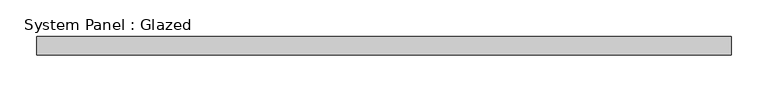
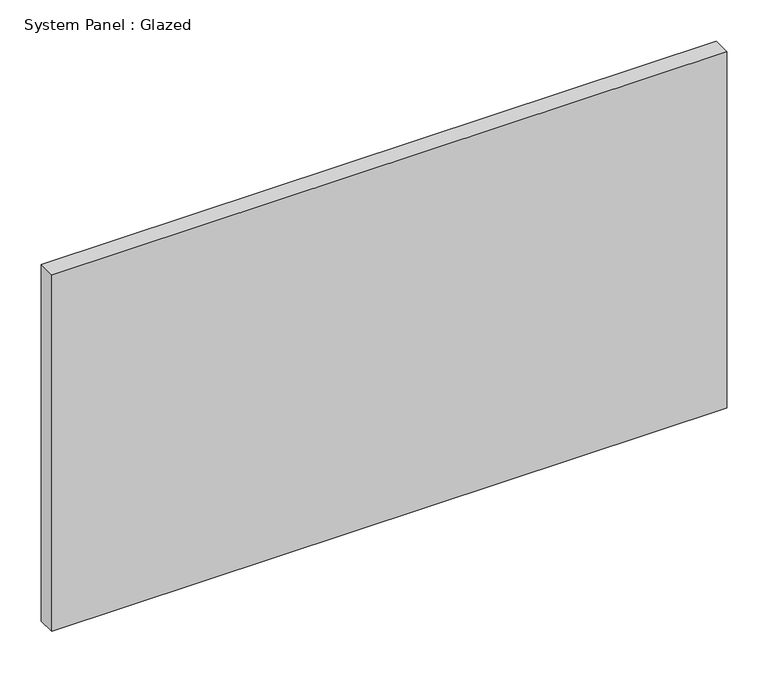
"""IFC4 building model written with IfcOpenShell, lengths in millimetres: plate geometry, System Panel : Glazed."""

import ifcopenshell
import ifcopenshell.guid

model = None  # the IFC model being written
_history = None  # IfcOwnerHistory: only IFC2X3 demands one
_inside = {}  # id of a spatial element -> (the spatial element, [elements in it])
_under = {}  # id of a project, library or spatial element -> (it, [spatial elements below it])
_declared = {}  # id of a project -> (the project, [libraries it declares])
_typed = {}  # id of a type object -> (the type object, [elements of that type])
_made_of = {}  # id of a material, layer set ... -> (it, [elements and type objects made of it])


def new_model(schema):
    """Start an empty IFC model of exactly this schema.

    Asked for "IFC4X3", IfcOpenShell would pick the latest addendum, in which some entities
    have other attributes; the version numbers below select the first issue.
    IFC2X3 requires an IfcOwnerHistory on every rooted entity: one is made here for all.
    """
    global model, _history
    if schema == "IFC4X3":
        model = ifcopenshell.file(schema_version=(4, 3, 0, 0))
    else:
        model = ifcopenshell.file(schema=schema)
    _inside.clear()
    _under.clear()
    _declared.clear()
    _typed.clear()
    _made_of.clear()
    _history = None
    if model.schema == "IFC2X3":
        org = make("IfcOrganization", Name="unknown")
        user = make(
            "IfcPersonAndOrganization",
            ThePerson=make("IfcPerson", FamilyName="unknown"),
            TheOrganization=org,
        )
        app = make(
            "IfcApplication",
            ApplicationDeveloper=org,
            Version="unknown",
            ApplicationFullName="unknown",
            ApplicationIdentifier="unknown",
        )
        _history = make(
            "IfcOwnerHistory",
            OwningUser=user,
            OwningApplication=app,
            ChangeAction="ADDED",
            CreationDate=0,
        )
    return model


def make(cls, **values):
    """One entity of the class cls with the attributes given. An attribute that is None is left unset."""
    return model.create_entity(
        cls, **{name: value for name, value in values.items() if value is not None}
    )


def rooted(cls, **values):
    """An entity with a GlobalId (a new one), such as an element, a storey or a relation."""
    return make(cls, GlobalId=ifcopenshell.guid.new(), OwnerHistory=_history, **values)


def si_unit(unit_type, name, prefix=None):
    """IfcSIUnit, for example si_unit("LENGTHUNIT", "METRE", prefix="MILLI")."""
    return make("IfcSIUnit", UnitType=unit_type, Prefix=prefix, Name=name)


def assignment(units):
    """IfcUnitAssignment: the units of a project."""
    return None if units is None else make("IfcUnitAssignment", Units=units)


def point(xyz):
    """IfcCartesianPoint."""
    return None if xyz is None else make("IfcCartesianPoint", Coordinates=xyz)


def direction(xyz):
    """IfcDirection."""
    return None if xyz is None else make("IfcDirection", DirectionRatios=xyz)


def frame(location, z_axis=None, x_axis=None):
    """IfcAxis2Placement3D, a coordinate frame: its origin and axes. An axis left out is left unset."""
    return make(
        "IfcAxis2Placement3D",
        Location=point(location),
        Axis=direction(z_axis),
        RefDirection=direction(x_axis),
    )


def origin():
    """The frame at (0, 0, 0) with its axes left unset."""
    return frame((0.0, 0.0, 0.0))


def origin_with_axes():
    """The frame at (0, 0, 0) with the z axis (0, 0, 1) and the x axis (1, 0, 0) written out."""
    return frame((0.0, 0.0, 0.0), z_axis=(0.0, 0.0, 1.0), x_axis=(1.0, 0.0, 0.0))


def place(relative_to, where):
    """IfcLocalPlacement: puts the frame where relative to a parent placement (None: the world)."""
    return make(
        "IfcLocalPlacement", PlacementRelTo=relative_to, RelativePlacement=where
    )


def context(
    kind, dimensions, precision=None, world=None, true_north=None, identifier=None
):
    """IfcGeometricRepresentationContext, for example the 3D "Model" context."""
    return make(
        "IfcGeometricRepresentationContext",
        ContextIdentifier=identifier,
        ContextType=kind,
        CoordinateSpaceDimension=dimensions,
        Precision=precision,
        WorldCoordinateSystem=world,
        TrueNorth=true_north,
    )


def project(units=None, contexts=None):
    """IfcProject with its units and contexts."""
    return rooted(
        "IfcProject",
        Name="project",
        RepresentationContexts=contexts,
        UnitsInContext=assignment(units),
    )


def spatial(cls, under=None, at=None, **own):
    """A site, building, storey or space (cls), placed at a placement, below another one or the project."""
    s = rooted(cls, ObjectPlacement=at, **own)
    if under is not None:
        _under.setdefault(under.id(), (under, []))[1].append(s)
    return s


def polyline(points):
    """IfcPolyline through the points."""
    return make("IfcPolyline", Points=[point(p) for p in points])


def outline(outer, holes=None, kind="AREA"):
    """IfcArbitraryClosedProfileDef: a profile drawn as a closed curve; with holes, ...WithVoids."""
    if holes is None:
        return make("IfcArbitraryClosedProfileDef", ProfileType=kind, OuterCurve=outer)
    return make(
        "IfcArbitraryProfileDefWithVoids",
        ProfileType=kind,
        OuterCurve=outer,
        InnerCurves=holes,
    )


def extrude(swept, where, along, depth):
    """IfcExtrudedAreaSolid: the profile swept, set in the frame where, extruded along a direction by depth."""
    return make(
        "IfcExtrudedAreaSolid",
        SweptArea=swept,
        Position=where,
        ExtrudedDirection=direction(along),
        Depth=depth,
    )


def shape(context_of_items, identifier, shape_type, items):
    """IfcShapeRepresentation: the items that make up one representation, for example the "Body"."""
    return make(
        "IfcShapeRepresentation",
        ContextOfItems=context_of_items,
        RepresentationIdentifier=identifier,
        RepresentationType=shape_type,
        Items=items,
    )


def source(mapping_origin, context_of_items, identifier, shape_type, items):
    """IfcRepresentationMap: a shape defined once, which mapped items show again and again."""
    return make(
        "IfcRepresentationMap",
        MappingOrigin=mapping_origin,
        MappedRepresentation=shape(context_of_items, identifier, shape_type, items),
    )


def transform(
    local_origin,
    x_axis=None,
    y_axis=None,
    z_axis=None,
    scale=None,
    scale2=None,
    scale3=None,
    uniform=True,
):
    """IfcCartesianTransformationOperator3D, or its non-uniform kind. x_axis, y_axis, z_axis: its Axis1, 2, 3."""
    if uniform:
        return make(
            "IfcCartesianTransformationOperator3D",
            Axis1=direction(x_axis),
            Axis2=direction(y_axis),
            LocalOrigin=point(local_origin),
            Scale=scale,
            Axis3=direction(z_axis),
        )
    return make(
        "IfcCartesianTransformationOperator3DnonUniform",
        Axis1=direction(x_axis),
        Axis2=direction(y_axis),
        LocalOrigin=point(local_origin),
        Scale=scale,
        Axis3=direction(z_axis),
        Scale2=scale2,
        Scale3=scale3,
    )


def mapped(mapping_source, mapping_target):
    """IfcMappedItem: shows the shape of a source again, moved by a transform."""
    return make(
        "IfcMappedItem", MappingSource=mapping_source, MappingTarget=mapping_target
    )


def made_of(thing, what):
    """Note that an element or type object is made of a material, layer set ...; save() writes the relation."""
    if what is not None:
        _made_of.setdefault(what.id(), (what, []))[1].append(thing)
    return thing


def element(
    cls,
    number,
    at=None,
    inside=None,
    cuts=None,
    type_object=None,
    material=None,
    context=None,
    identifier="Body",
    shape_type=None,
    held_by="IfcProductDefinitionShape",
    body=None,
    shapes=None,
    **own,
):
    """One element of the class cls, such as IfcWall. Its Tag is "e" and its number.

    at: its placement. inside: the storey or other place that contains it. cuts: it is an
    opening in that element (IfcRelVoidsElement). A single representation is given by context,
    identifier, shape_type and body (its items); several are given by shapes. held_by: the class
    of the entity that holds the representations. save() writes the other relations.
    """
    e = rooted(cls, Tag="e%d" % number, ObjectPlacement=at, **own)
    if body is not None:
        shapes = [shape(context, identifier, shape_type, body)]
    if shapes is not None:
        e.Representation = make(held_by, Representations=shapes)
    if inside is not None:
        _inside.setdefault(inside.id(), (inside, []))[1].append(e)
    if cuts is not None:
        rooted(
            "IfcRelVoidsElement", RelatingBuildingElement=cuts, RelatedOpeningElement=e
        )
    if type_object is not None:
        _typed.setdefault(type_object.id(), (type_object, []))[1].append(e)
    return made_of(e, material)


def aggregate(whole, parts):
    """IfcRelAggregates: a whole, such as a stair, and the parts it consists of."""
    return rooted("IfcRelAggregates", RelatingObject=whole, RelatedObjects=parts)


def save(model, path):
    """Write the relations noted so far, then the file.

    IfcRelAggregates (storeys below a building ...), IfcRelContainedInSpatialStructure (elements
    in a storey), IfcRelDefinesByType, IfcRelAssociatesMaterial and IfcRelDeclares: one each for
    every whole, place, type object, material and project.
    """
    for whole, parts in _under.values():
        aggregate(whole, parts)
    for where, things in _inside.values():
        rooted(
            "IfcRelContainedInSpatialStructure",
            RelatedElements=things,
            RelatingStructure=where,
        )
    for kind, things in _typed.values():
        rooted("IfcRelDefinesByType", RelatedObjects=things, RelatingType=kind)
    for what, things in _made_of.values():
        rooted("IfcRelAssociatesMaterial", RelatedObjects=things, RelatingMaterial=what)
    for by, libraries in _declared.values():
        rooted("IfcRelDeclares", RelatingContext=by, RelatedDefinitions=libraries)
    model.write(path)


def system_panel_glazed_72f60e3a(model_context):
    return source(origin(), model_context, "Body", "SweptSolid", [
        extrude(outline(polyline([(470.8333334, 24.5), (-470.8333334, 24.5), (-470.8333334, 49.5), (470.8333334, 49.5), (470.8333334, 24.5)])), origin_with_axes(), (0.0, 0.0, 1.0), 526.145744),
    ])


if __name__ == "__main__":
    model = new_model("IFC4")
    model_context = context("Model", 3, world=origin())
    ifc_project = project(units=[si_unit("LENGTHUNIT", "METRE", prefix="MILLI")], contexts=[model_context])
    site = spatial("IfcSite", under=ifc_project)
    building = spatial("IfcBuilding", under=site)
    placement = place(None, origin())
    system_panel_glazed_shape = system_panel_glazed_72f60e3a(model_context)
    element("IfcPlate", 1, ObjectType="System Panel : Glazed", at=placement, inside=building, context=model_context, shape_type="MappedRepresentation", body=[
        mapped(system_panel_glazed_shape, transform((0.0, 0.0, 0.0), x_axis=(1.0, 0.0, 0.0), y_axis=(0.0, 1.0, 0.0), z_axis=(0.0, 0.0, 1.0))),
    ])
    save(model, "model.ifc")
